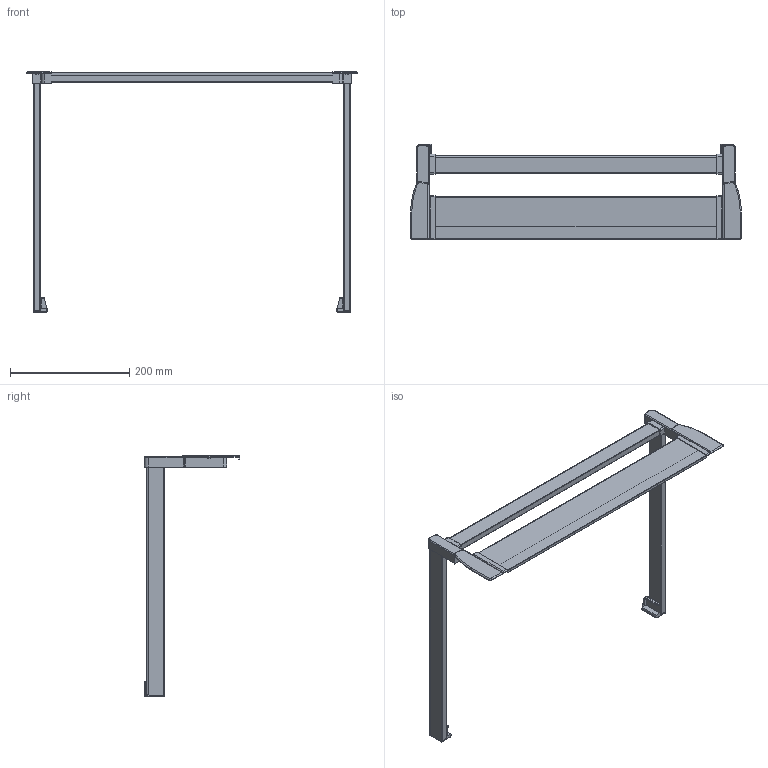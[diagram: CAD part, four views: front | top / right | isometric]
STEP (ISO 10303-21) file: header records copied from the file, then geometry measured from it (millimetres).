
FILE_DESCRIPTION (( 'STEP AP214' ), '1' );
FILE_NAME ('1_P620_NL 400_KAB 600_19er KS_.step', '2009-09-16T06:29:24', ( 'Waldinger Reinhard' ), ( 'Grass GmbH' ), 'SwSTEP 2.0', 'SolidWorks 2009', '' );
FILE_SCHEMA (( 'AUTOMOTIVE_DESIGN' ));
Length unit declared in the file: millimetre
Products named in the file (1): 1_P620_NL 400_KAB 600_19er KS_
Bounding box: 553.6 x 160.5 x 402.8 mm (x, y, z)
Volume: 916095.2 mm3; surface area: 217454.7 mm2
Topology: 1 solids, 1 shells, 220 faces, 578 edges, 364 vertices
Faces by surface type: plane 97, cylinder 91, torus 28, sphere 2, bspline 2
Entity records: 7004 total; most frequent: CARTESIAN_POINT 1345, DIRECTION 1198, ORIENTED_EDGE 1152, EDGE_CURVE 576, AXIS2_PLACEMENT_3D 433, VERTEX_POINT 364, VECTOR 332, LINE 332
